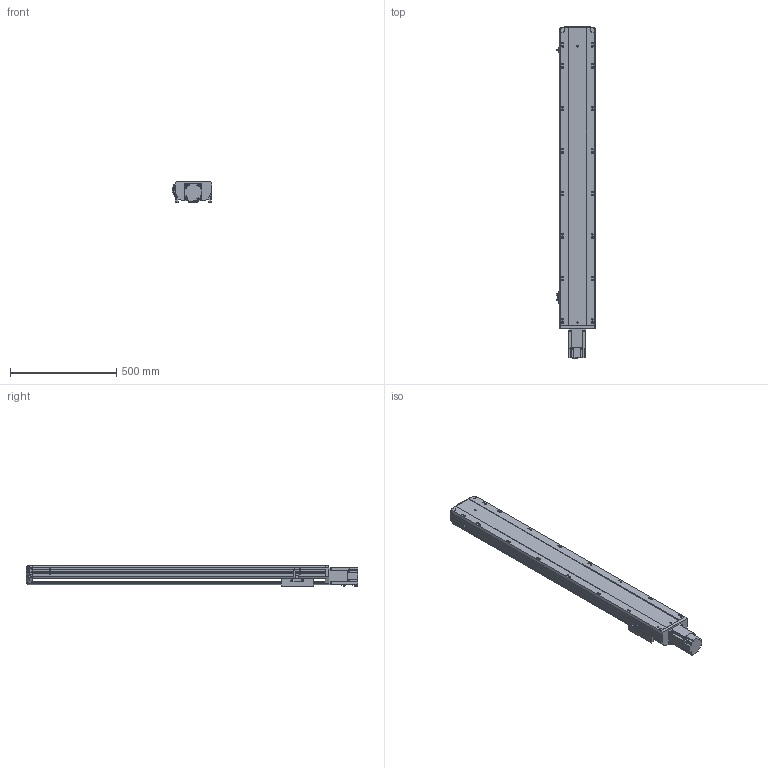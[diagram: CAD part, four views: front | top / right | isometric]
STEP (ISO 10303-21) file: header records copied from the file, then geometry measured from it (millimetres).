
FILE_DESCRIPTION (( 'STEP AP203' ), '1' );
FILE_NAME ('23.STEP', '2020-11-21T01:15:55', ( '' ), ( '' ), 'SwSTEP 2.0', 'SolidWorks 2016', '' );
FILE_SCHEMA (( 'CONFIG_CONTROL_DESIGN' ));
Length unit declared in the file: millimetre
Products named in the file (7): BTH17-BC-T75; BTH17-BC-HZ-T75_賑釱; BTH17-BC-02-T75; 23; BTH17-BC-750W-菁釱; BTH17-BC-01-T75; BTH17-BC-04-T75
Assembly tree (8 placements, depth 2):
  23
    BTH17-BC-750W-菁釱
    BTH17-BC-01-T75
    BTH17-BC-02-T75
    BTH17-BC-04-T75  x3
    BTH17-BC-HZ-T75_賑釱
    BTH17-BC-T75
Bounding box: 183.7 x 1561.83 x 99.3 mm (x, y, z)
Volume: 10202292.6 mm3; surface area: 1626545 mm2
Topology: 12 solids, 12 shells, 1552 faces, 4226 edges, 2711 vertices
Faces by surface type: plane 797, cylinder 450, bspline 183, cone 99, torus 23
Entity records: 53556 total; most frequent: CARTESIAN_POINT 20287, ORIENTED_EDGE 7250, DIRECTION 6087, EDGE_CURVE 3625, VERTEX_POINT 2351, AXIS2_PLACEMENT_3D 2051, LINE 1985, VECTOR 1985
